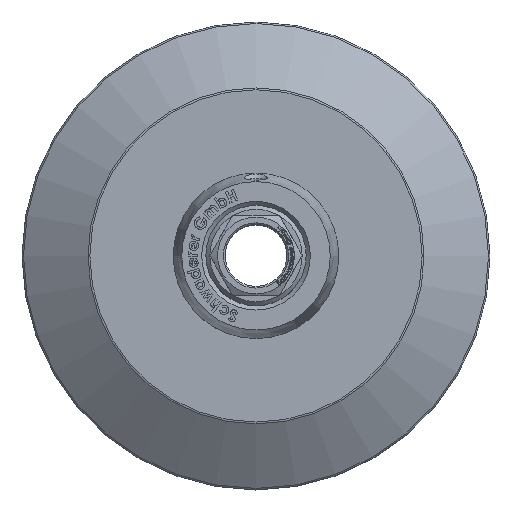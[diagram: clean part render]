
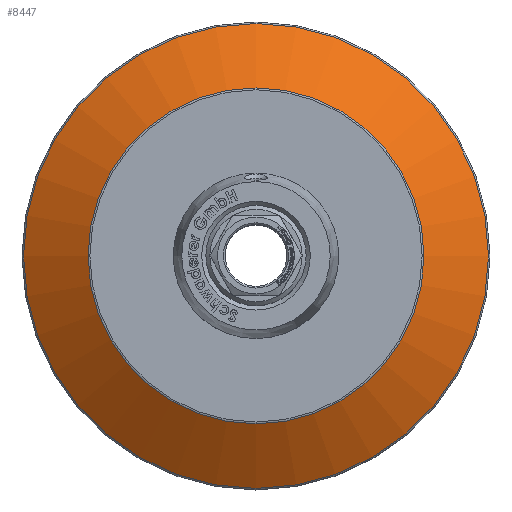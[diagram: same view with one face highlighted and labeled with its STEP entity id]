
A CAD part, top view. The second image highlights one B-rep face of the part: STEP entity #8447.
In plain terms, the highlighted conical face has half-angle 56.976 degrees and reference radius 60 mm.
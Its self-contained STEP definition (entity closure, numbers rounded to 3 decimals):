
#963=LINE('',#10968,#1744);
#1744=VECTOR('',#9375,60.);
#2525=CONICAL_SURFACE('',#8954,60.,0.994);
#2543=FACE_OUTER_BOUND('',#3022,.T.);
#3022=EDGE_LOOP('',(#5845,#5846,#5847,#5848,#5849,#5850));
#3552=CIRCLE('',#8951,50.249);
#3553=CIRCLE('',#8952,50.249);
#3555=CIRCLE('',#8955,69.545);
#3556=CIRCLE('',#8956,69.545);
#3668=VERTEX_POINT('',#10957);
#3669=VERTEX_POINT('',#10959);
#3670=VERTEX_POINT('',#10964);
#3671=VERTEX_POINT('',#10965);
#4539=EDGE_CURVE('',#3668,#3669,#3552,.T.);
#4540=EDGE_CURVE('',#3669,#3668,#3553,.T.);
#4542=EDGE_CURVE('',#3670,#3671,#3555,.T.);
#4543=EDGE_CURVE('',#3671,#3670,#3556,.T.);
#4544=EDGE_CURVE('',#3671,#3668,#963,.T.);
#5845=ORIENTED_EDGE('',*,*,#4542,.F.);
#5846=ORIENTED_EDGE('',*,*,#4543,.F.);
#5847=ORIENTED_EDGE('',*,*,#4544,.T.);
#5848=ORIENTED_EDGE('',*,*,#4540,.F.);
#5849=ORIENTED_EDGE('',*,*,#4539,.F.);
#5850=ORIENTED_EDGE('',*,*,#4544,.F.);
#8447=ADVANCED_FACE('',(#2543),#2525,.T.);
#8951=AXIS2_PLACEMENT_3D('',#10960,#9363,#9364);
#8952=AXIS2_PLACEMENT_3D('',#10961,#9365,#9366);
#8954=AXIS2_PLACEMENT_3D('',#10963,#9369,#9370);
#8955=AXIS2_PLACEMENT_3D('',#10966,#9371,#9372);
#8956=AXIS2_PLACEMENT_3D('',#10967,#9373,#9374);
#9363=DIRECTION('center_axis',(0.,0.,
1.));
#9364=DIRECTION('ref_axis',(-1.,0.,0.));
#9365=DIRECTION('center_axis',(0.,0.,
1.));
#9366=DIRECTION('ref_axis',(-1.,0.,0.));
#9369=DIRECTION('center_axis',(0.,0.,-1.));
#9370=DIRECTION('ref_axis',(1.,0.,0.));
#9371=DIRECTION('center_axis',(0.,0.,
-1.));
#9372=DIRECTION('ref_axis',(-1.,0.,0.));
#9373=DIRECTION('center_axis',(0.,0.,
-1.));
#9374=DIRECTION('ref_axis',(-1.,0.,0.));
#9375=DIRECTION('',(0.838,0.,0.545));
#10957=CARTESIAN_POINT('',(-50.249,0.,-24.029));
#10959=CARTESIAN_POINT('',(50.249,0.,-24.029));
#10960=CARTESIAN_POINT('Origin',(0.,0.,-24.029));
#10961=CARTESIAN_POINT('Origin',(0.,0.,-24.029));
#10963=CARTESIAN_POINT('Origin',(0.,0.,-30.367));
#10964=CARTESIAN_POINT('',(69.545,0.,-36.571));
#10965=CARTESIAN_POINT('',(-69.545,0.,-36.571));
#10966=CARTESIAN_POINT('Origin',(0.,0.,
-36.571));
#10967=CARTESIAN_POINT('Origin',(0.,0.,
-36.571));
#10968=CARTESIAN_POINT('',(-60.,0.,-30.367));
